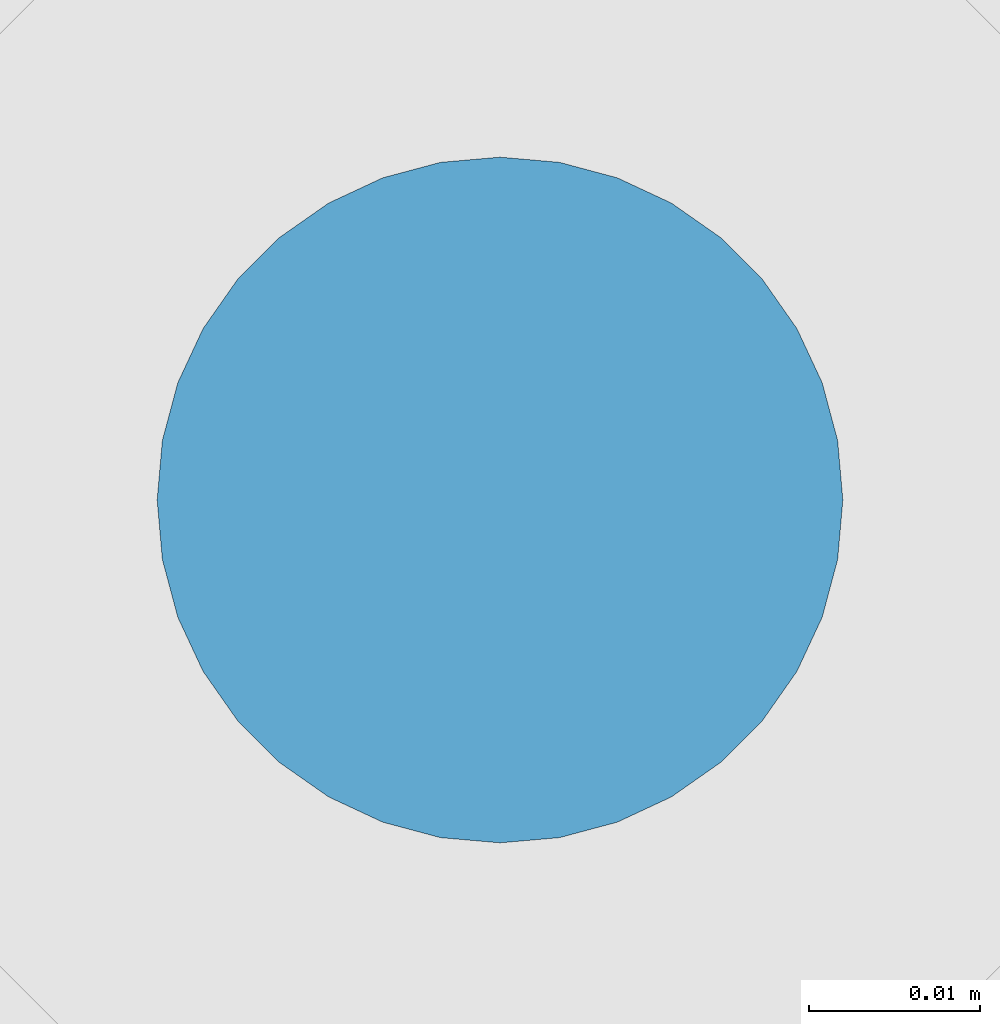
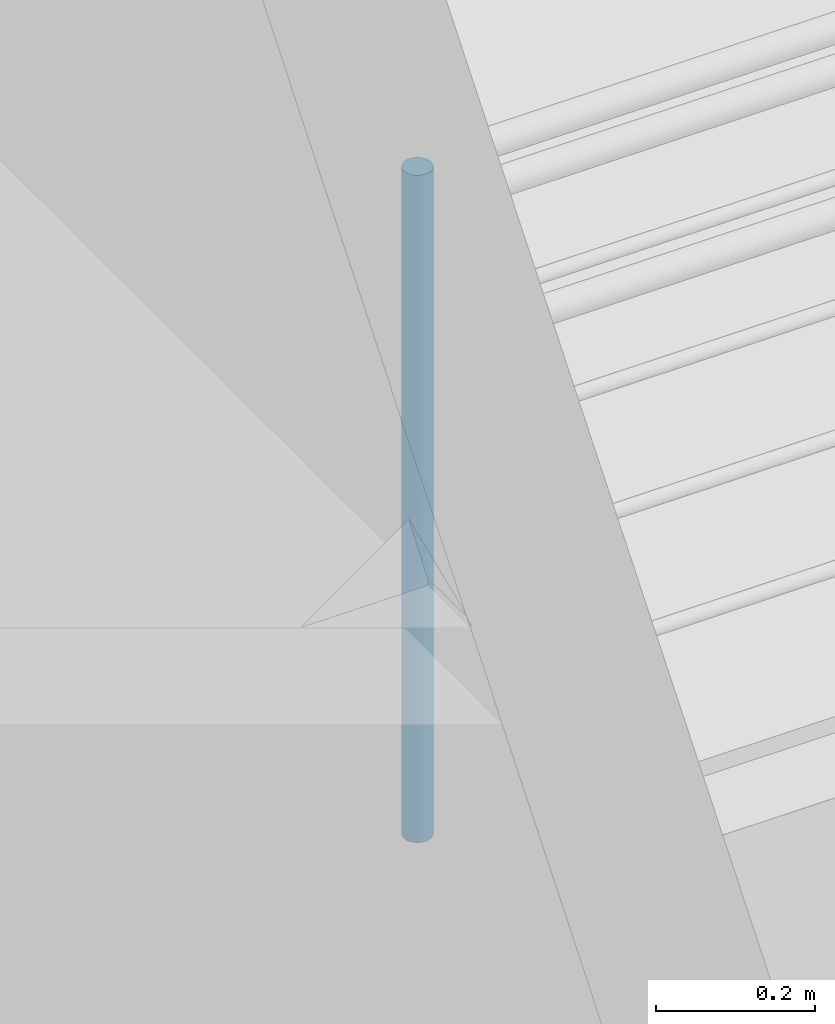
# One storey, part 56 of 237: 1 building element part, 1 element without a shape of its own.
"""IFC2X3 building model written with IfcOpenShell, lengths in millimetres."""

import ifcopenshell
import ifcopenshell.guid

model = None  # the IFC model being written
_history = None  # IfcOwnerHistory: only IFC2X3 demands one
_inside = {}  # id of a spatial element -> (the spatial element, [elements in it])
_under = {}  # id of a project, library or spatial element -> (it, [spatial elements below it])
_declared = {}  # id of a project -> (the project, [libraries it declares])
_typed = {}  # id of a type object -> (the type object, [elements of that type])
_made_of = {}  # id of a material, layer set ... -> (it, [elements and type objects made of it])


def new_model(schema):
    """Start an empty IFC model of exactly this schema.

    Asked for "IFC4X3", IfcOpenShell would pick the latest addendum, in which some entities
    have other attributes; the version numbers below select the first issue.
    IFC2X3 requires an IfcOwnerHistory on every rooted entity: one is made here for all.
    """
    global model, _history
    if schema == "IFC4X3":
        model = ifcopenshell.file(schema_version=(4, 3, 0, 0))
    else:
        model = ifcopenshell.file(schema=schema)
    _inside.clear()
    _under.clear()
    _declared.clear()
    _typed.clear()
    _made_of.clear()
    _history = None
    if model.schema == "IFC2X3":
        org = make("IfcOrganization", Name="unknown")
        user = make(
            "IfcPersonAndOrganization",
            ThePerson=make("IfcPerson", FamilyName="unknown"),
            TheOrganization=org,
        )
        app = make(
            "IfcApplication",
            ApplicationDeveloper=org,
            Version="unknown",
            ApplicationFullName="unknown",
            ApplicationIdentifier="unknown",
        )
        _history = make(
            "IfcOwnerHistory",
            OwningUser=user,
            OwningApplication=app,
            ChangeAction="ADDED",
            CreationDate=0,
        )
    return model


def make(cls, **values):
    """One entity of the class cls with the attributes given. An attribute that is None is left unset."""
    return model.create_entity(
        cls, **{name: value for name, value in values.items() if value is not None}
    )


def entity(cls, *values):
    """Any entity or typed value of the class cls, its attributes in the order of the schema. None: left unset."""
    e = model.create_entity(cls)
    for i, value in enumerate(values):
        if value is not None:
            e[i] = value
    return e


def rooted(cls, **values):
    """An entity with a GlobalId (a new one), such as an element, a storey or a relation."""
    return make(cls, GlobalId=ifcopenshell.guid.new(), OwnerHistory=_history, **values)


def si_unit(unit_type, name, prefix=None):
    """IfcSIUnit, for example si_unit("LENGTHUNIT", "METRE", prefix="MILLI")."""
    return make("IfcSIUnit", UnitType=unit_type, Prefix=prefix, Name=name)


def converted_unit(unit_type, name, factor, base, dimensions=None, offset=None):
    """IfcConversionBasedUnit, such as the inch: factor (a typed value) times the base unit."""
    return make(
        "IfcConversionBasedUnit"
        if offset is None
        else "IfcConversionBasedUnitWithOffset",
        ConversionOffset=offset,
        Dimensions=None
        if dimensions is None
        else entity("IfcDimensionalExponents", *dimensions),
        UnitType=unit_type,
        Name=name,
        ConversionFactor=make(
            "IfcMeasureWithUnit", ValueComponent=factor, UnitComponent=base
        ),
    )


def derived_unit(unit_type, elements):
    """IfcDerivedUnit: a product of units, each with its exponent."""
    return make(
        "IfcDerivedUnit",
        Elements=[
            make("IfcDerivedUnitElement", Unit=unit, Exponent=power)
            for unit, power in elements
        ],
        UnitType=unit_type,
    )


def money_unit(currency):
    """IfcMonetaryUnit."""
    return make("IfcMonetaryUnit", Currency=currency)


def assignment(units):
    """IfcUnitAssignment: the units of a project."""
    return None if units is None else make("IfcUnitAssignment", Units=units)


def point(xyz):
    """IfcCartesianPoint."""
    return None if xyz is None else make("IfcCartesianPoint", Coordinates=xyz)


def direction(xyz):
    """IfcDirection."""
    return None if xyz is None else make("IfcDirection", DirectionRatios=xyz)


def frame(location, z_axis=None, x_axis=None):
    """IfcAxis2Placement3D, a coordinate frame: its origin and axes. An axis left out is left unset."""
    return make(
        "IfcAxis2Placement3D",
        Location=point(location),
        Axis=direction(z_axis),
        RefDirection=direction(x_axis),
    )


def origin_with_axes():
    """The frame at (0, 0, 0) with the z axis (0, 0, 1) and the x axis (1, 0, 0) written out."""
    return frame((0.0, 0.0, 0.0), z_axis=(0.0, 0.0, 1.0), x_axis=(1.0, 0.0, 0.0))


def place(relative_to, where):
    """IfcLocalPlacement: puts the frame where relative to a parent placement (None: the world)."""
    return make(
        "IfcLocalPlacement", PlacementRelTo=relative_to, RelativePlacement=where
    )


def context(
    kind, dimensions, precision=None, world=None, true_north=None, identifier=None
):
    """IfcGeometricRepresentationContext, for example the 3D "Model" context."""
    return make(
        "IfcGeometricRepresentationContext",
        ContextIdentifier=identifier,
        ContextType=kind,
        CoordinateSpaceDimension=dimensions,
        Precision=precision,
        WorldCoordinateSystem=world,
        TrueNorth=true_north,
    )


def subcontext(parent, identifier, kind, view, scale=None):
    """IfcGeometricRepresentationSubContext, for example "Body" below "Model"."""
    return make(
        "IfcGeometricRepresentationSubContext",
        ContextIdentifier=identifier,
        ContextType=kind,
        ParentContext=parent,
        TargetScale=scale,
        TargetView=view,
    )


def project(units=None, contexts=None):
    """IfcProject with its units and contexts."""
    return rooted(
        "IfcProject",
        Name="project",
        RepresentationContexts=contexts,
        UnitsInContext=assignment(units),
    )


def spatial(cls, under=None, at=None, **own):
    """A site, building, storey or space (cls), placed at a placement, below another one or the project."""
    s = rooted(cls, ObjectPlacement=at, **own)
    if under is not None:
        _under.setdefault(under.id(), (under, []))[1].append(s)
    return s


def faces_of(points, faces, orient=None, outer=None):
    """IfcFace entities. A face is a list of loops; a loop is a list of indices into points, from 0.

    orient and outer hold one flag for each loop. By default every Orientation is true, the
    first loop of a face is its IfcFaceOuterBound and the others are IfcFaceBound.
    """
    made = []
    for i, loops in enumerate(faces):
        bounds = []
        for j, loop in enumerate(loops):
            is_outer = j == 0 if outer is None else outer[i][j]
            bounds.append(
                make(
                    "IfcFaceOuterBound" if is_outer else "IfcFaceBound",
                    Bound=make("IfcPolyLoop", Polygon=[points[k] for k in loop]),
                    Orientation=True if orient is None else orient[i][j],
                )
            )
        made.append(make("IfcFace", Bounds=bounds))
    return made


def faceted_brep(points, faces, orient=None, outer=None, voids=None):
    """IfcFacetedBrep: a solid bounded by flat faces; with voids (closed shells), ...WithVoids."""
    shared = [point(p) for p in points]
    hull = make("IfcClosedShell", CfsFaces=faces_of(shared, faces, orient, outer))
    if voids is None:
        return make("IfcFacetedBrep", Outer=hull)
    return make(
        "IfcFacetedBrepWithVoids",
        Outer=hull,
        Voids=[
            make(cls, CfsFaces=faces_of(shared, fs, o, b)) for cls, fs, o, b in voids
        ],
    )


def shape(context_of_items, identifier, shape_type, items):
    """IfcShapeRepresentation: the items that make up one representation, for example the "Body"."""
    return make(
        "IfcShapeRepresentation",
        ContextOfItems=context_of_items,
        RepresentationIdentifier=identifier,
        RepresentationType=shape_type,
        Items=items,
    )


def material(Name=None, Category=None):
    """IfcMaterial."""
    return make("IfcMaterial", Name=Name, Category=Category)


def made_of(thing, what):
    """Note that an element or type object is made of a material, layer set ...; save() writes the relation."""
    if what is not None:
        _made_of.setdefault(what.id(), (what, []))[1].append(thing)
    return thing


def type_object(cls, material=None, **own):
    """A type object (cls), such as IfcWallType, which elements share."""
    return made_of(rooted(cls, **own), material)


def element(
    cls,
    number,
    at=None,
    inside=None,
    cuts=None,
    type_object=None,
    material=None,
    context=None,
    identifier="Body",
    shape_type=None,
    held_by="IfcProductDefinitionShape",
    body=None,
    shapes=None,
    **own,
):
    """One element of the class cls, such as IfcWall. Its Tag is "e" and its number.

    at: its placement. inside: the storey or other place that contains it. cuts: it is an
    opening in that element (IfcRelVoidsElement). A single representation is given by context,
    identifier, shape_type and body (its items); several are given by shapes. held_by: the class
    of the entity that holds the representations. save() writes the other relations.
    """
    e = rooted(cls, Tag="e%d" % number, ObjectPlacement=at, **own)
    if body is not None:
        shapes = [shape(context, identifier, shape_type, body)]
    if shapes is not None:
        e.Representation = make(held_by, Representations=shapes)
    if inside is not None:
        _inside.setdefault(inside.id(), (inside, []))[1].append(e)
    if cuts is not None:
        rooted(
            "IfcRelVoidsElement", RelatingBuildingElement=cuts, RelatedOpeningElement=e
        )
    if type_object is not None:
        _typed.setdefault(type_object.id(), (type_object, []))[1].append(e)
    return made_of(e, material)


def aggregate(whole, parts):
    """IfcRelAggregates: a whole, such as a stair, and the parts it consists of."""
    return rooted("IfcRelAggregates", RelatingObject=whole, RelatedObjects=parts)


def save(model, path):
    """Write the relations noted so far, then the file.

    IfcRelAggregates (storeys below a building ...), IfcRelContainedInSpatialStructure (elements
    in a storey), IfcRelDefinesByType, IfcRelAssociatesMaterial and IfcRelDeclares: one each for
    every whole, place, type object, material and project.
    """
    for whole, parts in _under.values():
        aggregate(whole, parts)
    for where, things in _inside.values():
        rooted(
            "IfcRelContainedInSpatialStructure",
            RelatedElements=things,
            RelatingStructure=where,
        )
    for kind, things in _typed.values():
        rooted("IfcRelDefinesByType", RelatedObjects=things, RelatingType=kind)
    for what, things in _made_of.values():
        rooted("IfcRelAssociatesMaterial", RelatedObjects=things, RelatingMaterial=what)
    for by, libraries in _declared.values():
        rooted("IfcRelDeclares", RelatingContext=by, RelatedDefinitions=libraries)
    model.write(path)


model = new_model("IFC2X3")

# Units and contexts
model_context = context("Model", 3, precision=0.01, world=origin_with_axes(), true_north=direction((0.0, 1.0)))
body_context = subcontext(model_context, "Body", "Model", "MODEL_VIEW")
ifc_project = project(units=[si_unit("LENGTHUNIT", "METRE", prefix="MILLI"), si_unit("AREAUNIT", "SQUARE_METRE"), si_unit("VOLUMEUNIT", "CUBIC_METRE"), converted_unit("PLANEANGLEUNIT", "DEGREE", entity("IfcPlaneAngleMeasure", 0.0174532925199), si_unit("PLANEANGLEUNIT", "RADIAN"), dimensions=[0, 0, 0, 0, 0, 0, 0]), money_unit("USD"), converted_unit("TIMEUNIT", "Year", entity("IfcTimeMeasure", 31556926.0), si_unit("TIMEUNIT", "SECOND"), dimensions=[0, 0, 1, 0, 0, 0, 0]), si_unit("MASSUNIT", "GRAM", prefix="KILO"), si_unit("THERMODYNAMICTEMPERATUREUNIT", "DEGREE_CELSIUS"), si_unit("LUMINOUSINTENSITYUNIT", "LUMEN"), si_unit("ENERGYUNIT", "JOULE", prefix="MEGA"), derived_unit("THERMALCONDUCTANCEUNIT", [(si_unit("POWERUNIT", "WATT"), 1), (si_unit("LENGTHUNIT", "METRE"), -1), (si_unit("THERMODYNAMICTEMPERATUREUNIT", "KELVIN"), -1)]), derived_unit("SPECIFICHEATCAPACITYUNIT", [(si_unit("ENERGYUNIT", "JOULE"), 1), (si_unit("MASSUNIT", "GRAM", prefix="KILO"), -1), (si_unit("THERMODYNAMICTEMPERATUREUNIT", "KELVIN"), -1)]), derived_unit("MASSDENSITYUNIT", [(si_unit("MASSUNIT", "GRAM", prefix="KILO"), 1), (si_unit("VOLUMEUNIT", "CUBIC_METRE"), -1)])], contexts=[model_context])

# Site, building, storey
site_placement = place(None, origin_with_axes())
site = spatial("IfcSite", under=ifc_project, at=site_placement, Name="Local", CompositionType="ELEMENT")
building_placement = place(site_placement, origin_with_axes())
building = spatial("IfcBuilding", under=site, at=building_placement, Name="Construção", CompositionType="ELEMENT")
storey_placement = place(building_placement, origin_with_axes())
storey = spatial("IfcBuildingStorey", under=building, at=storey_placement, Name="Pavimento Térreo", CompositionType="ELEMENT", Elevation=0.0)

# Railing, building element part
railing_type = type_object("IfcRailingType", Name="Tipo de Guarda-Corpo", PredefinedType="NOTDEFINED")
railing_placement = place(storey_placement, frame((77071.0413397, 23732.4143775, -4865.39060156), z_axis=(0.0, 0.0, 1.0), x_axis=(1.0, 0.0, 0.0)))
railing = element("IfcRailing", 1, at=railing_placement, inside=storey, type_object=railing_type, Name="Guarda-Corpo - 001", PredefinedType="NOTDEFINED")
ifc_material = material(Name="Aço - Inoxidável")
building_element_part_placement = place(railing_placement, origin_with_axes())
building_element_part = element("IfcBuildingElementPart", 2, at=building_element_part_placement, material=ifc_material, Name="Aço - Inoxidável", context=body_context, shape_type="Brep", body=[
    faceted_brep([(1718.22200096, -3316.52230332, 525.0), (1717.91815602, -3319.99526687, 525.0), (1717.91815602, -3319.99526687, 1550.0), (1718.22200096, -3316.52230332, 1550.0), (1718.22200095, -3323.46823042, 525.0), (1719.12430361, -3313.154864, 525.0), (1720.59764795, -3309.99526687, 525.0), (1722.59726717, -3307.13951468, 525.0), (1725.06240384, -3304.67437801, 525.0), (1727.91815604, -3302.6747588, 525.0), (1731.07775317, -3301.20141447, 525.0), (1734.44519249, -3300.29911183, 525.0), (1737.91815604, -3299.99526689, 525.0), (1741.39111959, -3300.29911183, 525.0), (1744.75855891, -3301.20141448, 525.0), (1747.91815604, -3302.67475883, 525.0), (1750.77390823, -3304.67437804, 525.0), (1753.2390449, -3307.13951471, 525.0), (1755.23866411, -3309.99526691, 525.0), (1756.71200844, -3313.15486404, 525.0), (1757.61431108, -3316.52230336, 525.0), (1757.91815602, -3319.99526691, 525.0), (1757.61431108, -3323.46823047, 525.0), (1756.71200843, -3326.83566978, 525.0), (1755.23866408, -3329.99526691, 525.0), (1753.23904487, -3332.8510191, 525.0), (1750.7739082, -3335.31615577, 525.0), (1747.918156, -3337.31577498, 525.0), (1744.75855886, -3338.78911931, 525.0), (1741.39111955, -3339.69142195, 525.0), (1737.918156, -3339.99526689, 525.0), (1734.44519244, -3339.69142195, 525.0), (1731.07775313, -3338.7891193, 525.0), (1727.918156, -3337.31577496, 525.0), (1725.06240381, -3335.31615574, 525.0), (1722.59726714, -3332.85101907, 525.0), (1720.59764793, -3329.99526687, 525.0), (1719.1243036, -3326.83566974, 525.0), (1718.22200095, -3323.46823042, 1550.0), (1741.39111959, -3300.29911183, 1550.0), (1737.91815604, -3299.99526689, 1550.0), (1734.44519249, -3300.29911183, 1550.0), (1731.07775317, -3301.20141447, 1550.0), (1727.91815604, -3302.6747588, 1550.0), (1725.06240384, -3304.67437801, 1550.0), (1722.59726717, -3307.13951468, 1550.0), (1720.59764795, -3309.99526687, 1550.0), (1719.12430361, -3313.154864, 1550.0), (1719.1243036, -3326.83566974, 1550.0), (1720.59764793, -3329.99526687, 1550.0), (1722.59726714, -3332.85101907, 1550.0), (1725.06240381, -3335.31615574, 1550.0), (1727.918156, -3337.31577496, 1550.0), (1731.07775313, -3338.7891193, 1550.0), (1734.44519244, -3339.69142195, 1550.0), (1737.918156, -3339.99526689, 1550.0), (1741.39111955, -3339.69142195, 1550.0), (1744.75855886, -3338.78911931, 1550.0), (1747.918156, -3337.31577498, 1550.0), (1750.7739082, -3335.31615577, 1550.0), (1753.23904487, -3332.8510191, 1550.0), (1755.23866408, -3329.99526691, 1550.0), (1756.71200843, -3326.83566978, 1550.0), (1757.61431108, -3323.46823047, 1550.0), (1757.91815602, -3319.99526691, 1550.0), (1757.61431108, -3316.52230336, 1550.0), (1756.71200844, -3313.15486404, 1550.0), (1755.23866411, -3309.99526691, 1550.0), (1753.2390449, -3307.13951471, 1550.0), (1750.77390823, -3304.67437804, 1550.0), (1747.91815604, -3302.67475883, 1550.0), (1744.75855891, -3301.20141448, 1550.0)], [[[0, 1, 2, 3]], [[4, 1, 0, 5, 6, 7, 8, 9, 10, 11, 12, 13, 14, 15, 16, 17, 18, 19, 20, 21, 22, 23, 24, 25, 26, 27, 28, 29, 30, 31, 32, 33, 34, 35, 36, 37]], [[1, 4, 38, 2]], [[39, 40, 41, 42, 43, 44, 45, 46, 47, 3, 2, 38, 48, 49, 50, 51, 52, 53, 54, 55, 56, 57, 58, 59, 60, 61, 62, 63, 64, 65, 66, 67, 68, 69, 70, 71]], [[5, 0, 3, 47]], [[6, 5, 47, 46]], [[7, 6, 46, 45]], [[8, 7, 45, 44]], [[9, 8, 44, 43]], [[10, 9, 43, 42]], [[11, 10, 42, 41]], [[12, 11, 41, 40]], [[13, 12, 40, 39]], [[14, 13, 39, 71]], [[15, 14, 71, 70]], [[16, 15, 70, 69]], [[17, 16, 69, 68]], [[18, 17, 68, 67]], [[19, 18, 67, 66]], [[20, 19, 66, 65]], [[21, 20, 65, 64]], [[22, 21, 64, 63]], [[23, 22, 63, 62]], [[24, 23, 62, 61]], [[25, 24, 61, 60]], [[26, 25, 60, 59]], [[27, 26, 59, 58]], [[28, 27, 58, 57]], [[29, 28, 57, 56]], [[30, 29, 56, 55]], [[31, 30, 55, 54]], [[32, 31, 54, 53]], [[33, 32, 53, 52]], [[34, 33, 52, 51]], [[35, 34, 51, 50]], [[36, 35, 50, 49]], [[37, 36, 49, 48]], [[4, 37, 48, 38]]]),
])
aggregate(railing, [building_element_part])

save(model, "model.ifc")
